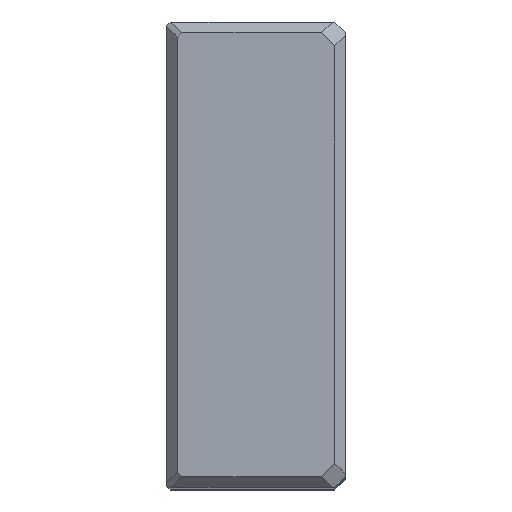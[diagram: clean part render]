
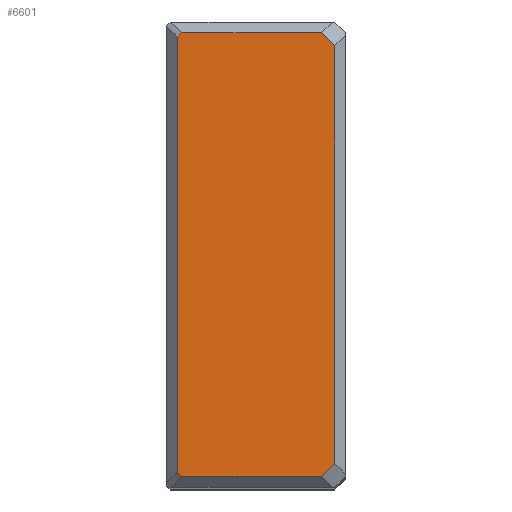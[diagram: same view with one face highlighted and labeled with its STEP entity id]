
A CAD part, top view. The second image highlights one B-rep face of the part: STEP entity #6601.
In plain terms, the highlighted planar face has unit normal (0, 0, 1).
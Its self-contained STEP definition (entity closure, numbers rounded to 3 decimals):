
#95=VERTEX_POINT(' ',#96);
#96=CARTESIAN_POINT('',(-3.,-58.326,0.));
#97=VERTEX_POINT(' ',#98);
#98=CARTESIAN_POINT('',(-6.674,-62.,0.));
#127=VERTEX_POINT(' ',#128);
#128=CARTESIAN_POINT('',(-3.,58.326,0.));
#135=VERTEX_POINT(' ',#136);
#136=CARTESIAN_POINT('',(-6.674,62.,0.));
#161=VERTEX_POINT(' ',#162);
#162=CARTESIAN_POINT('',(-45.775,-62.,0.));
#169=VERTEX_POINT(' ',#170);
#170=CARTESIAN_POINT('',(-47.,-60.775,0.));
#189=VERTEX_POINT(' ',#190);
#190=CARTESIAN_POINT('',(-47.,60.775,0.));
#193=VERTEX_POINT(' ',#194);
#194=CARTESIAN_POINT('',(-45.775,62.,0.));
#1328=LINE('',#1329,#1330);
#1329=CARTESIAN_POINT('',(27.663,-27.663,0.));
#1330=VECTOR('',#1331,1.);
#1331=DIRECTION('',(0.707,0.707,0.));
#1332=EDGE_CURVE(' ',#95,#97,#1328,.F.);
#1458=LINE('',#1459,#1460);
#1459=CARTESIAN_POINT('',(-3.,-65.12,0.));
#1460=VECTOR('',#1461,1.);
#1461=DIRECTION('',(0.,1.,0.));
#1462=EDGE_CURVE(' ',#95,#127,#1458,.T.);
#1483=LINE('',#1484,#1485);
#1484=CARTESIAN_POINT('',(27.663,27.663,0.));
#1485=VECTOR('',#1486,1.);
#1486=DIRECTION('',(-0.707,0.707,0.));
#1487=EDGE_CURVE(' ',#135,#127,#1483,.F.);
#1628=LINE('',#1629,#1630);
#1629=CARTESIAN_POINT('',(-50.12,-62.,0.));
#1630=VECTOR('',#1631,1.);
#1631=DIRECTION('',(1.,0.,0.));
#1632=EDGE_CURVE(' ',#161,#97,#1628,.T.);
#1643=LINE('',#1644,#1645);
#1644=CARTESIAN_POINT('',(-53.888,-53.888,0.));
#1645=VECTOR('',#1646,1.);
#1646=DIRECTION('',(0.707,-0.707,0.));
#1647=EDGE_CURVE(' ',#161,#169,#1643,.F.);
#1740=LINE('',#1741,#1742);
#1741=CARTESIAN_POINT('',(-47.,-65.12,0.));
#1742=VECTOR('',#1743,1.);
#1743=DIRECTION('',(0.,1.,0.));
#1744=EDGE_CURVE(' ',#169,#189,#1740,.T.);
#1745=LINE('',#1746,#1747);
#1746=CARTESIAN_POINT('',(-53.888,53.888,0.));
#1747=VECTOR('',#1748,1.);
#1748=DIRECTION('',(-0.707,-0.707,0.));
#1749=EDGE_CURVE(' ',#189,#193,#1745,.F.);
#1750=LINE('',#1751,#1752);
#1751=CARTESIAN_POINT('',(-50.12,62.,0.));
#1752=VECTOR('',#1753,1.);
#1753=DIRECTION('',(1.,0.,0.));
#1754=EDGE_CURVE(' ',#135,#193,#1750,.F.);
#6586=ORIENTED_EDGE('',*,*,#1749,.F.);
#6587=ORIENTED_EDGE('',*,*,#1744,.F.);
#6588=ORIENTED_EDGE('',*,*,#1647,.F.);
#6589=ORIENTED_EDGE('',*,*,#1632,.T.);
#6590=ORIENTED_EDGE('',*,*,#1332,.F.);
#6591=ORIENTED_EDGE('',*,*,#1462,.T.);
#6592=ORIENTED_EDGE('',*,*,#1487,.F.);
#6593=ORIENTED_EDGE('',*,*,#1754,.T.);
#6594=EDGE_LOOP('',(#6586,#6587,#6588,#6589,#6590,#6591,#6592,#6593));
#6595=FACE_OUTER_BOUND('',#6594,.T.);
#6596=PLANE('',#6597);
#6597=AXIS2_PLACEMENT_3D('',#6598,#6599,#6600);
#6598=CARTESIAN_POINT('',(-47.,0.,0.));
#6599=DIRECTION('',(0.,0.,1.));
#6600=DIRECTION('',(1.,0.,0.));
#6601=ADVANCED_FACE('',(#6595),#6596,.T.);
